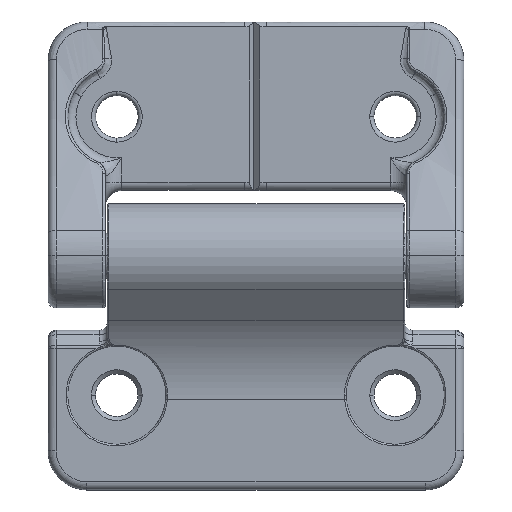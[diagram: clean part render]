
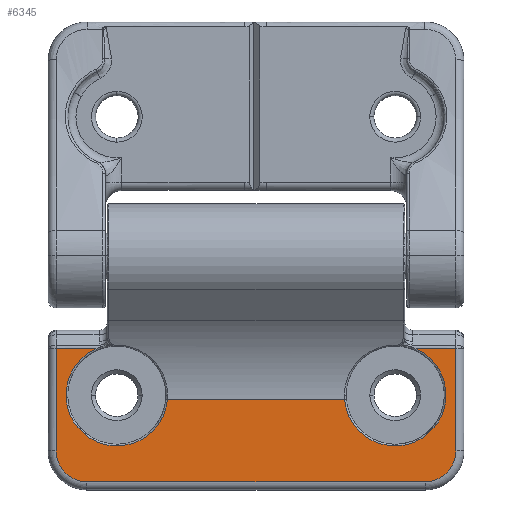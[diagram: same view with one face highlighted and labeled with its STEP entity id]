
A CAD part, top view. The second image highlights one B-rep face of the part: STEP entity #6345.
In plain terms, the highlighted planar face has unit normal (0, 0, 1).
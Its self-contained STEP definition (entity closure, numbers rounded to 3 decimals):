
#26 = CARTESIAN_POINT ( 'NONE',  ( -24.4, -11.345, 4.5 ) ) ;
#29 = DIRECTION ( 'NONE',  ( 0., 0., -1. ) ) ;
#91 = CARTESIAN_POINT ( 'NONE',  ( -19.541, -11.345, 4.5 ) ) ;
#184 = LINE ( 'NONE', #6748, #1524 ) ;
#547 = DIRECTION ( 'NONE',  ( 0., 1., 0. ) ) ;
#1061 = VERTEX_POINT ( 'NONE', #12081 ) ;
#1211 = DIRECTION ( 'NONE',  ( 0., -1., 0. ) ) ;
#1512 = ORIENTED_EDGE ( 'NONE', *, *, #13472, .T. ) ;
#1524 = VECTOR ( 'NONE', #3884, 1000. ) ;
#1535 = VERTEX_POINT ( 'NONE', #4925 ) ;
#2020 = EDGE_CURVE ( 'NONE', #1061, #15175, #184, .T. ) ;
#2400 = CARTESIAN_POINT ( 'NONE',  ( -24.4, -23.815, 4.5 ) ) ;
#2432 = EDGE_CURVE ( 'NONE', #2818, #6665, #6339, .T. ) ;
#2549 = DIRECTION ( 'NONE',  ( -1., 0., 0. ) ) ;
#2563 = DIRECTION ( 'NONE',  ( 0., 0., -1. ) ) ;
#2695 = DIRECTION ( 'NONE',  ( 0., 0., 1. ) ) ;
#2817 = EDGE_CURVE ( 'NONE', #12062, #1535, #14362, .T. ) ;
#2818 = VERTEX_POINT ( 'NONE', #6293 ) ;
#3150 = VECTOR ( 'NONE', #547, 1000. ) ;
#3310 = VECTOR ( 'NONE', #2549, 1000. ) ;
#3784 = LINE ( 'NONE', #14616, #3310 ) ;
#3884 = DIRECTION ( 'NONE',  ( -1., 0., 0. ) ) ;
#3994 = LINE ( 'NONE', #26, #12695 ) ;
#4259 = ORIENTED_EDGE ( 'NONE', *, *, #2817, .T. ) ;
#4269 = CARTESIAN_POINT ( 'NONE',  ( 24.4, -23.815, 4.5 ) ) ;
#4457 = CIRCLE ( 'NONE', #14363, 3.76 ) ;
#4820 = AXIS2_PLACEMENT_3D ( 'NONE', #11874, #2563, #10458 ) ;
#4880 = DIRECTION ( 'NONE',  ( -1., 0., 0. ) ) ;
#4925 = CARTESIAN_POINT ( 'NONE',  ( -10.822, -17.543, 4.5 ) ) ;
#5074 = VERTEX_POINT ( 'NONE', #91 ) ;
#5184 = LINE ( 'NONE', #14576, #13504 ) ;
#5504 = DIRECTION ( 'NONE',  ( 0., -1., 0. ) ) ;
#5580 = ORIENTED_EDGE ( 'NONE', *, *, #2020, .T. ) ;
#6293 = CARTESIAN_POINT ( 'NONE',  ( 20.64, -27.575, 4.5 ) ) ;
#6339 = CIRCLE ( 'NONE', #8625, 3.76 ) ;
#6345 = ADVANCED_FACE ( 'NONE', ( #7482 ), #12694, .T. ) ;
#6633 = DIRECTION ( 'NONE',  ( 0., 0., 1. ) ) ;
#6665 = VERTEX_POINT ( 'NONE', #4269 ) ;
#6748 = CARTESIAN_POINT ( 'NONE',  ( 24.4, -11.345, 4.5 ) ) ;
#6763 = CARTESIAN_POINT ( 'NONE',  ( -16.998, -17., 4.5 ) ) ;
#6877 = EDGE_CURVE ( 'NONE', #6665, #1061, #7293, .T. ) ;
#6894 = DIRECTION ( 'NONE',  ( -1., 0., 0. ) ) ;
#7293 = LINE ( 'NONE', #8870, #3150 ) ;
#7482 = FACE_OUTER_BOUND ( 'NONE', #10026, .T. ) ;
#8017 = ORIENTED_EDGE ( 'NONE', *, *, #11728, .T. ) ;
#8368 = ORIENTED_EDGE ( 'NONE', *, *, #16600, .T. ) ;
#8501 = EDGE_CURVE ( 'NONE', #14566, #13310, #4457, .T. ) ;
#8625 = AXIS2_PLACEMENT_3D ( 'NONE', #16003, #6633, #1211 ) ;
#8635 = VECTOR ( 'NONE', #4880, 1000. ) ;
#8794 = ORIENTED_EDGE ( 'NONE', *, *, #8501, .T. ) ;
#8870 = CARTESIAN_POINT ( 'NONE',  ( 24.4, -23.815, 4.5 ) ) ;
#9578 = CARTESIAN_POINT ( 'NONE',  ( 10.822, -17.543, 4.5 ) ) ;
#10026 = EDGE_LOOP ( 'NONE', ( #1512, #8794, #8017, #13316, #15258, #5580, #8368, #4259, #11171, #16806 ) ) ;
#10078 = CARTESIAN_POINT ( 'NONE',  ( -20.64, -27.575, 4.5 ) ) ;
#10389 = VERTEX_POINT ( 'NONE', #16084 ) ;
#10458 = DIRECTION ( 'NONE',  ( 0.41, 0.912, 0. ) ) ;
#10484 = AXIS2_PLACEMENT_3D ( 'NONE', #6763, #29, #14821 ) ;
#10572 = DIRECTION ( 'NONE',  ( 1., 0., 0. ) ) ;
#11070 = AXIS2_PLACEMENT_3D ( 'NONE', #11368, #12861, #11623 ) ;
#11171 = ORIENTED_EDGE ( 'NONE', *, *, #17142, .T. ) ;
#11368 = CARTESIAN_POINT ( 'NONE',  ( 0., -19.46, 4.5 ) ) ;
#11623 = DIRECTION ( 'NONE',  ( 1., 0., 0. ) ) ;
#11728 = EDGE_CURVE ( 'NONE', #13310, #2818, #5184, .T. ) ;
#11874 = CARTESIAN_POINT ( 'NONE',  ( 16.998, -17., 4.5 ) ) ;
#12062 = VERTEX_POINT ( 'NONE', #9578 ) ;
#12081 = CARTESIAN_POINT ( 'NONE',  ( 24.4, -11.345, 4.5 ) ) ;
#12240 = EDGE_CURVE ( 'NONE', #5074, #10389, #3784, .T. ) ;
#12694 = PLANE ( 'NONE',  #11070 ) ;
#12695 = VECTOR ( 'NONE', #5504, 1000. ) ;
#12861 = DIRECTION ( 'NONE',  ( 0., 0., 1. ) ) ;
#13310 = VERTEX_POINT ( 'NONE', #10078 ) ;
#13316 = ORIENTED_EDGE ( 'NONE', *, *, #2432, .T. ) ;
#13472 = EDGE_CURVE ( 'NONE', #10389, #14566, #3994, .T. ) ;
#13504 = VECTOR ( 'NONE', #10572, 1000. ) ;
#14162 = CIRCLE ( 'NONE', #10484, 6.2 ) ;
#14362 = LINE ( 'NONE', #14454, #8635 ) ;
#14363 = AXIS2_PLACEMENT_3D ( 'NONE', #15992, #2695, #6894 ) ;
#14454 = CARTESIAN_POINT ( 'NONE',  ( 10.822, -17.543, 4.5 ) ) ;
#14566 = VERTEX_POINT ( 'NONE', #2400 ) ;
#14576 = CARTESIAN_POINT ( 'NONE',  ( -20.64, -27.575, 4.5 ) ) ;
#14616 = CARTESIAN_POINT ( 'NONE',  ( -19.541, -11.345, 4.5 ) ) ;
#14701 = CARTESIAN_POINT ( 'NONE',  ( 19.541, -11.345, 4.5 ) ) ;
#14821 = DIRECTION ( 'NONE',  ( 0.996, -0.088, 0. ) ) ;
#15175 = VERTEX_POINT ( 'NONE', #14701 ) ;
#15258 = ORIENTED_EDGE ( 'NONE', *, *, #6877, .T. ) ;
#15992 = CARTESIAN_POINT ( 'NONE',  ( -20.64, -23.815, 4.5 ) ) ;
#16003 = CARTESIAN_POINT ( 'NONE',  ( 20.64, -23.815, 4.5 ) ) ;
#16084 = CARTESIAN_POINT ( 'NONE',  ( -24.4, -11.345, 4.5 ) ) ;
#16137 = CIRCLE ( 'NONE', #4820, 6.2 ) ;
#16600 = EDGE_CURVE ( 'NONE', #15175, #12062, #16137, .T. ) ;
#16806 = ORIENTED_EDGE ( 'NONE', *, *, #12240, .T. ) ;
#17142 = EDGE_CURVE ( 'NONE', #1535, #5074, #14162, .T. ) ;
